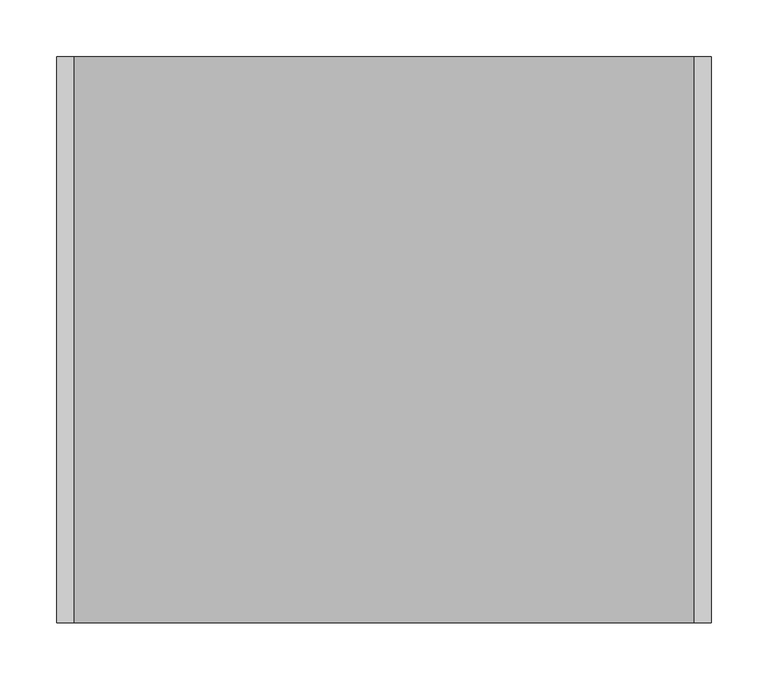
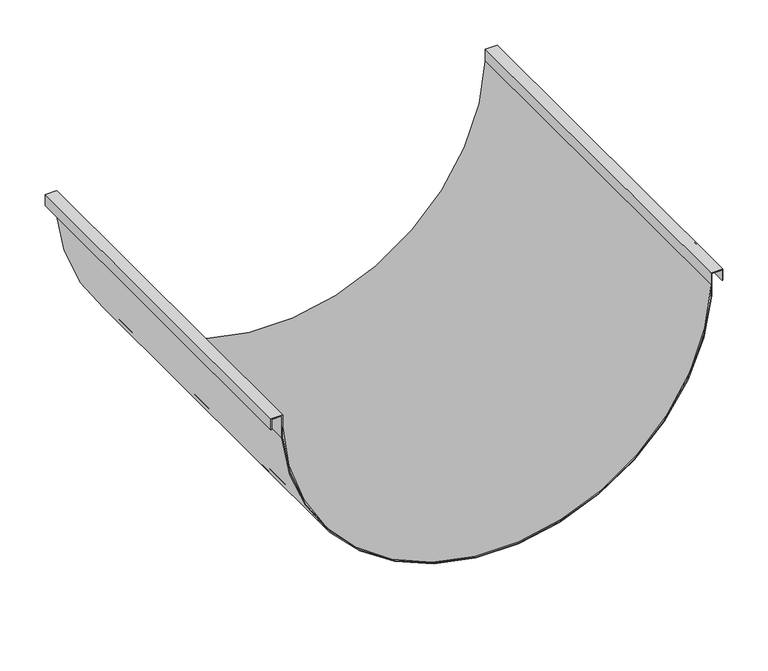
"""IFC4 building model written with IfcOpenShell, lengths in millimetres: proxy geometry, durlum_S5_DOMUS_panel : durlum_S5_DOMUS_panel_wall_corner."""

from ifc_helpers import new_model, si_unit, point, frame, frame_2d, origin, place, context, project, spatial, polyline, circle_curve, trimmed, segment, composite_curve, outline, extrude, source, transform, mapped, element, save


def generic_models_3d7ed079(model_context):
    return source(origin(), model_context, "Body", "SweptSolid", [
        extrude(outline(composite_curve([segment(polyline([(0.0472082, 273.75), (14.8707737, 273.75)]), True, "CONTINUOUS"), segment(trimmed(circle_curve(frame_2d((25.975125, 0.0)), 273.975125), [point((14.8707737, 273.75))], [point((14.8707737, -273.75))], True, "CARTESIAN"), True, "CONTINUOUS"), segment(polyline([(14.8707737, -273.75), (0.0472082, -273.75)]), True, "CONTINUOUS"), segment(trimmed(circle_curve(frame_2d((25.975125, 0.0)), 274.975125), [point((0.0472082, -273.75))], [point((0.0472082, 273.75))], False, "CARTESIAN"), True, "CONTINUOUS")], self_intersect=False)), frame((0.0, -249.75, 0.0), z_axis=(0.0, 1.0, 0.0), x_axis=(0.0, 0.0, 1.0)), (0.0, 0.0, 1.0), 499.5),
        extrude(outline(polyline([(30.0, -274.75), (0.0, -274.75), (0.0, -273.75), (31.0, -273.75), (31.0, -288.75), (16.0, -288.75), (16.0, -287.75), (30.0, -287.75), (30.0, -274.75)])), frame((0.0, -249.75, 0.0), z_axis=(0.0, 1.0, 0.0), x_axis=(0.0, 0.0, 1.0)), (0.0, 0.0, 1.0), 499.5),
        extrude(outline(polyline([(30.0, 274.75), (30.0, 287.75), (16.0, 287.75), (16.0, 288.75), (31.0, 288.75), (31.0, 273.75), (0.0, 273.75), (0.0, 274.75), (30.0, 274.75)])), frame((0.0, -249.75, 0.0), z_axis=(0.0, 1.0, 0.0), x_axis=(0.0, 0.0, 1.0)), (0.0, 0.0, 1.0), 499.5),
        extrude(outline(composite_curve([segment(trimmed(circle_curve(frame_2d((25.975125, 0.0)), 275.975125), [point((0.0, -274.75))], [point((0.0, 274.75))], False, "CARTESIAN"), True, "CONTINUOUS"), segment(polyline([(0.0, 274.75), (14.8505185, 274.75)]), True, "CONTINUOUS"), segment(trimmed(circle_curve(frame_2d((25.975125, 0.0)), 274.975125), [point((14.8505185, 274.75))], [point((14.8505185, -274.75))], True, "CARTESIAN"), True, "CONTINUOUS"), segment(polyline([(14.8505185, -274.75), (0.0, -274.75)]), True, "CONTINUOUS")], self_intersect=False)), frame((0.0, -249.75, 0.0), z_axis=(0.0, 1.0, 0.0), x_axis=(0.0, 0.0, 1.0)), (0.0, 0.0, 1.0), 499.5),
    ])


if __name__ == "__main__":
    model = new_model("IFC4")
    model_context = context("Model", 3, world=origin())
    ifc_project = project(units=[si_unit("LENGTHUNIT", "METRE", prefix="MILLI")], contexts=[model_context])
    site = spatial("IfcSite", under=ifc_project)
    building = spatial("IfcBuilding", under=site)
    placement = place(None, origin())
    generic_models_shape = generic_models_3d7ed079(model_context)
    element("IfcBuildingElementProxy", 1, Name="durlum_S5_DOMUS_panel : durlum_S5_DOMUS_panel_wall_corner", ObjectType="durlum_S5_DOMUS_panel : durlum_S5_DOMUS_panel_wall_corner", at=placement, inside=building, context=model_context, shape_type="MappedRepresentation", body=[
        mapped(generic_models_shape, transform((0.0, 0.0, 0.0), x_axis=(1.0, 0.0, 0.0), y_axis=(0.0, 1.0, 0.0), z_axis=(0.0, 0.0, 1.0))),
    ])
    save(model, "model.ifc")
